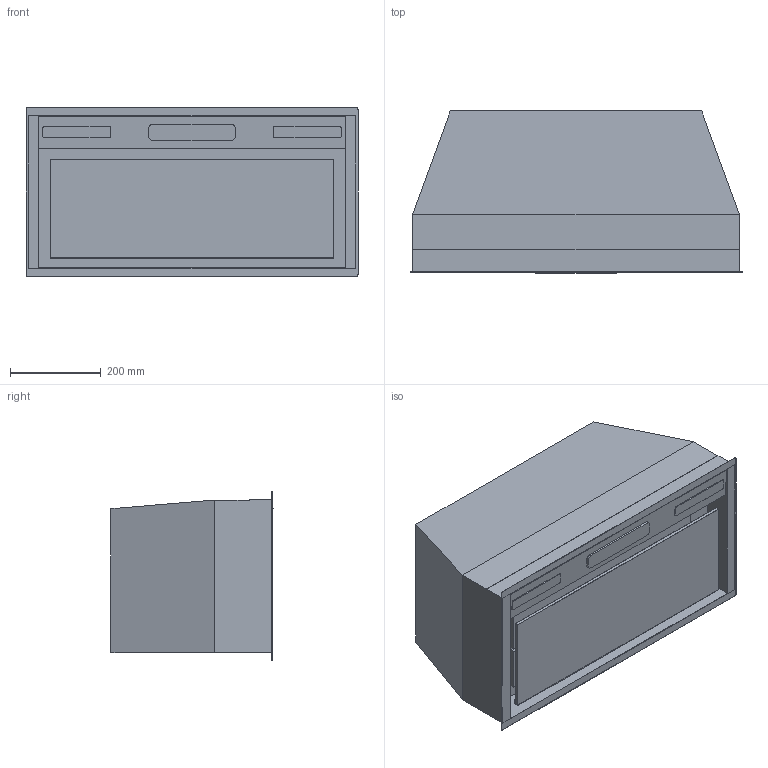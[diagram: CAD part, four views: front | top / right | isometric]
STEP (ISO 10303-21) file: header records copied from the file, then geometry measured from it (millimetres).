
FILE_DESCRIPTION((''),'2;1');
FILE_NAME('HBN65306SS_WEB_CAD_MODEL','2025-04-29T08:38:05',('BoutinM'),(''),'CREO PARAMETRIC BY PTC INC, 2023424','CREO PARAMETRIC BY PTC INC, 2023424','');
FILE_SCHEMA(('CONFIG_CONTROL_DESIGN','SHAPE_APPEARANCE_LAYERS_GROUPS'));
Length unit declared in the file: inch
Products named in the file (1): HBN65306SS_WEB_CAD_MODEL
Bounding box: 732.21 x 357.38 x 373.1 mm (x, y, z)
Volume: 68752534.8 mm3; surface area: 1654047.6 mm2
Topology: 2 solids, 2 shells, 78 faces, 199 edges, 132 vertices
Faces by surface type: plane 62, cylinder 16
Entity records: 3731 total; most frequent: CARTESIAN_POINT 409, ORIENTED_EDGE 398, DIRECTION 387, COLOUR_RGB 290, PRESENTATION_STYLE_ASSIGNMENT 238, STYLED_ITEM 201, CURVE_STYLE 199, EDGE_CURVE 199
